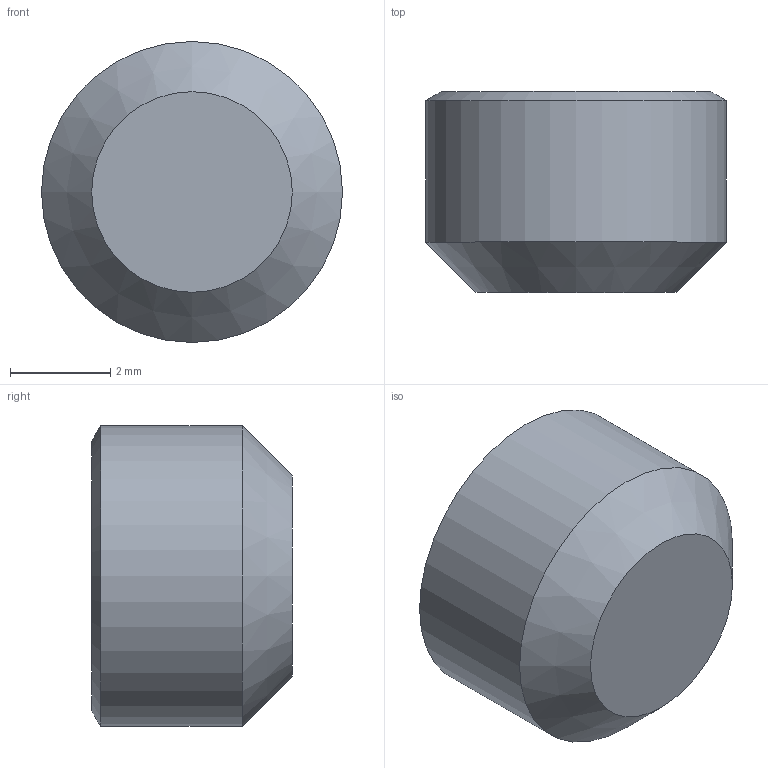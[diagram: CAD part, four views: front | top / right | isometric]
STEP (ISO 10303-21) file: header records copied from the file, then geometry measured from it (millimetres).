
FILE_DESCRIPTION(/* description */ (''),/* implementation_level */ '2;1');
FILE_NAME(/* name */ 'C:\Users\D\Documents\Inventor\各種小物\JIS\止めねじ\平先\M6\M6x4.stp',/* time_stamp */ '2022-06-23T14:26:16+09:00',/* author */ ('D'),/* organization */ (''),/* preprocessor_version */ 'ST-DEVELOPER v18',/* originating_system */ 'Autodesk Inventor 2020',/* authorisation */ '');
FILE_SCHEMA (('AUTOMOTIVE_DESIGN { 1 0 10303 214 3 1 1 }'));
Length unit declared in the file: millimetre
Products named in the file (1): M1.6x2
Bounding box: 6 x 4 x 6 mm (x, y, z)
Volume: 85.6 mm3; surface area: 140 mm2
Topology: 1 solids, 1 shells, 12 faces, 28 edges, 18 vertices
Faces by surface type: plane 8, cone 3, cylinder 1
Full cylindrical faces by diameter (mm): 6 x1
Entity records: 369 total; most frequent: CARTESIAN_POINT 72, ORIENTED_EDGE 54, DIRECTION 50, EDGE_CURVE 27, VERTEX_POINT 18, AXIS2_PLACEMENT_3D 17, LINE 16, VECTOR 16
